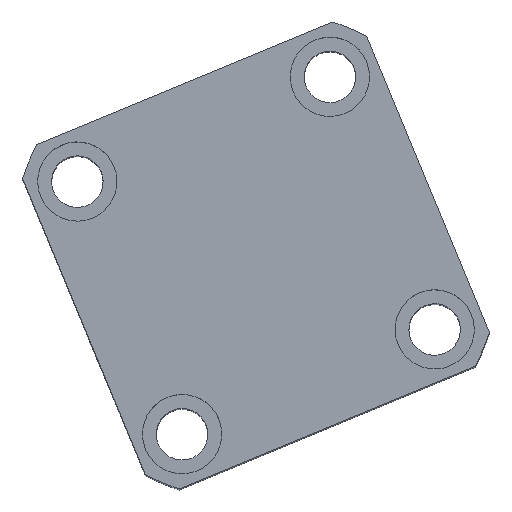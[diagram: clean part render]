
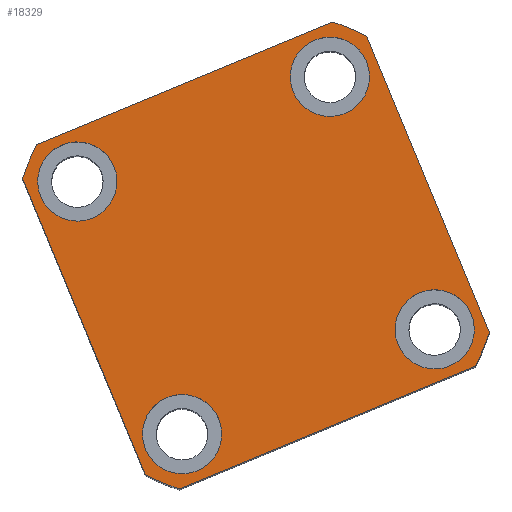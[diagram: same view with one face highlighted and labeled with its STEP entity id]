
A CAD part, top view. The second image highlights one B-rep face of the part: STEP entity #18329.
In plain terms, the highlighted planar face has unit normal (0, 0, 1) as drawn and (0, 0, -1) by its records, which use the part's own axes.
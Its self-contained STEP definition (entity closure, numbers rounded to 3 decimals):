
#22 = EDGE_CURVE ( 'NONE', #8369, #7451, #2681, .T. ) ;
#549 = EDGE_CURVE ( 'NONE', #849, #17460, #21818, .T. ) ;
#793 = DIRECTION ( 'NONE',  ( 0., 0., -1. ) ) ;
#849 = VERTEX_POINT ( 'NONE', #12873 ) ;
#913 = EDGE_LOOP ( 'NONE', ( #4081, #1590 ) ) ;
#1094 = CARTESIAN_POINT ( 'NONE',  ( -40.435, -47., 0. ) ) ;
#1113 = ORIENTED_EDGE ( 'NONE', *, *, #22320, .F. ) ;
#1490 = EDGE_LOOP ( 'NONE', ( #20046, #16457 ) ) ;
#1590 = ORIENTED_EDGE ( 'NONE', *, *, #549, .F. ) ;
#1638 = VECTOR ( 'NONE', #6488, 1000. ) ;
#2227 = EDGE_CURVE ( 'NONE', #17460, #849, #7490, .T. ) ;
#2338 = CIRCLE ( 'NONE', #5639, 10. ) ;
#2613 = CIRCLE ( 'NONE', #7751, 10. ) ;
#2681 = CIRCLE ( 'NONE', #6067, 10. ) ;
#2901 = AXIS2_PLACEMENT_3D ( 'NONE', #17996, #7690, #19758 ) ;
#3063 = DIRECTION ( 'NONE',  ( 0., 0., -1. ) ) ;
#3097 = EDGE_LOOP ( 'NONE', ( #9022, #17253 ) ) ;
#3123 = CARTESIAN_POINT ( 'NONE',  ( -34.5, -34.5, 0. ) ) ;
#3161 = VERTEX_POINT ( 'NONE', #16781 ) ;
#3204 = EDGE_CURVE ( 'NONE', #16765, #11398, #21440, .T. ) ;
#3255 = DIRECTION ( 'NONE',  ( 0., 0., 1. ) ) ;
#3385 = LINE ( 'NONE', #18712, #6867 ) ;
#3418 = VECTOR ( 'NONE', #12886, 1000. ) ;
#3911 = DIRECTION ( 'NONE',  ( 0., 0., -1. ) ) ;
#4081 = ORIENTED_EDGE ( 'NONE', *, *, #2227, .F. ) ;
#4095 = CARTESIAN_POINT ( 'NONE',  ( 0., 0., 0. ) ) ;
#4104 = EDGE_CURVE ( 'NONE', #20330, #10428, #3385, .T. ) ;
#4353 = ORIENTED_EDGE ( 'NONE', *, *, #21259, .F. ) ;
#4649 = EDGE_CURVE ( 'NONE', #7451, #8369, #17353, .T. ) ;
#4836 = DIRECTION ( 'NONE',  ( -1., 0., 0. ) ) ;
#4969 = CARTESIAN_POINT ( 'NONE',  ( 47., 40.435, 0. ) ) ;
#4992 = FACE_BOUND ( 'NONE', #17365, .T. ) ;
#5078 = AXIS2_PLACEMENT_3D ( 'NONE', #10192, #22253, #11908 ) ;
#5096 = DIRECTION ( 'NONE',  ( 0., 0., 1. ) ) ;
#5119 = DIRECTION ( 'NONE',  ( 0., 0., 1. ) ) ;
#5204 = CIRCLE ( 'NONE', #17248, 62. ) ;
#5634 = CARTESIAN_POINT ( 'NONE',  ( -34.5, 34.5, 0. ) ) ;
#5639 = AXIS2_PLACEMENT_3D ( 'NONE', #13367, #3063, #15106 ) ;
#5829 = DIRECTION ( 'NONE',  ( 1., 0., 0. ) ) ;
#5966 = CARTESIAN_POINT ( 'NONE',  ( -47., -47., 0. ) ) ;
#5974 = DIRECTION ( 'NONE',  ( 0., 0., -1. ) ) ;
#6067 = AXIS2_PLACEMENT_3D ( 'NONE', #14517, #793, #11138 ) ;
#6461 = CARTESIAN_POINT ( 'NONE',  ( -47., 47., 0. ) ) ;
#6488 = DIRECTION ( 'NONE',  ( 0., 1., 0. ) ) ;
#6802 = EDGE_CURVE ( 'NONE', #14773, #10284, #11155, .T. ) ;
#6867 = VECTOR ( 'NONE', #8404, 1000. ) ;
#7068 = CARTESIAN_POINT ( 'NONE',  ( -40.435, 47., 0. ) ) ;
#7104 = AXIS2_PLACEMENT_3D ( 'NONE', #7449, #19522, #9183 ) ;
#7148 = VERTEX_POINT ( 'NONE', #10773 ) ;
#7361 = DIRECTION ( 'NONE',  ( -1., 0., 0. ) ) ;
#7449 = CARTESIAN_POINT ( 'NONE',  ( -34.5, 34.5, 0. ) ) ;
#7451 = VERTEX_POINT ( 'NONE', #14732 ) ;
#7454 = CARTESIAN_POINT ( 'NONE',  ( -47., -40.435, 0. ) ) ;
#7490 = CIRCLE ( 'NONE', #7104, 10. ) ;
#7690 = DIRECTION ( 'NONE',  ( 0., 0., -1. ) ) ;
#7751 = AXIS2_PLACEMENT_3D ( 'NONE', #3123, #15167, #4836 ) ;
#7794 = EDGE_CURVE ( 'NONE', #3161, #18109, #5204, .T. ) ;
#7923 = ORIENTED_EDGE ( 'NONE', *, *, #22049, .F. ) ;
#7955 = LINE ( 'NONE', #5966, #3418 ) ;
#8149 = CARTESIAN_POINT ( 'NONE',  ( 47., 47., 0. ) ) ;
#8369 = VERTEX_POINT ( 'NONE', #8898 ) ;
#8404 = DIRECTION ( 'NONE',  ( 0., -1., 0. ) ) ;
#8898 = CARTESIAN_POINT ( 'NONE',  ( 44.5, -34.5, 0. ) ) ;
#9022 = ORIENTED_EDGE ( 'NONE', *, *, #6802, .F. ) ;
#9039 = FACE_OUTER_BOUND ( 'NONE', #12510, .T. ) ;
#9134 = VERTEX_POINT ( 'NONE', #19356 ) ;
#9183 = DIRECTION ( 'NONE',  ( -1., 0., 0. ) ) ;
#9404 = CARTESIAN_POINT ( 'NONE',  ( -47., 40.435, 0. ) ) ;
#9941 = DIRECTION ( 'NONE',  ( -1., 0., 0. ) ) ;
#10060 = DIRECTION ( 'NONE',  ( 1., 0., 0. ) ) ;
#10192 = CARTESIAN_POINT ( 'NONE',  ( 34.5, 34.5, 0. ) ) ;
#10284 = VERTEX_POINT ( 'NONE', #19439 ) ;
#10428 = VERTEX_POINT ( 'NONE', #7454 ) ;
#10773 = CARTESIAN_POINT ( 'NONE',  ( -24.5, -34.5, 0. ) ) ;
#10797 = LINE ( 'NONE', #8149, #1638 ) ;
#11138 = DIRECTION ( 'NONE',  ( -1., 0., 0. ) ) ;
#11155 = CIRCLE ( 'NONE', #5078, 10. ) ;
#11287 = AXIS2_PLACEMENT_3D ( 'NONE', #15448, #5119, #17161 ) ;
#11334 = CIRCLE ( 'NONE', #16606, 62. ) ;
#11398 = VERTEX_POINT ( 'NONE', #7068 ) ;
#11477 = ORIENTED_EDGE ( 'NONE', *, *, #4104, .F. ) ;
#11745 = CIRCLE ( 'NONE', #19369, 10. ) ;
#11908 = DIRECTION ( 'NONE',  ( -1., 0., 0. ) ) ;
#12131 = ORIENTED_EDGE ( 'NONE', *, *, #19075, .F. ) ;
#12271 = VECTOR ( 'NONE', #9941, 1000. ) ;
#12510 = EDGE_LOOP ( 'NONE', ( #12131, #1113, #13819, #16608, #4353, #11477, #7923, #19428 ) ) ;
#12719 = AXIS2_PLACEMENT_3D ( 'NONE', #13558, #3255, #15308 ) ;
#12873 = CARTESIAN_POINT ( 'NONE',  ( -24.5, 34.5, 0. ) ) ;
#12886 = DIRECTION ( 'NONE',  ( 1., 0., 0. ) ) ;
#13133 = AXIS2_PLACEMENT_3D ( 'NONE', #15171, #20389, #10060 ) ;
#13367 = CARTESIAN_POINT ( 'NONE',  ( -34.5, -34.5, 0. ) ) ;
#13483 = VERTEX_POINT ( 'NONE', #1094 ) ;
#13558 = CARTESIAN_POINT ( 'NONE',  ( 0., 0., 0. ) ) ;
#13617 = FACE_BOUND ( 'NONE', #3097, .T. ) ;
#13819 = ORIENTED_EDGE ( 'NONE', *, *, #7794, .F. ) ;
#14165 = FACE_BOUND ( 'NONE', #913, .T. ) ;
#14171 = AXIS2_PLACEMENT_3D ( 'NONE', #5634, #3911, #7361 ) ;
#14517 = CARTESIAN_POINT ( 'NONE',  ( 34.5, -34.5, 0. ) ) ;
#14616 = EDGE_CURVE ( 'NONE', #9134, #7148, #2613, .T. ) ;
#14732 = CARTESIAN_POINT ( 'NONE',  ( 24.5, -34.5, 0. ) ) ;
#14773 = VERTEX_POINT ( 'NONE', #15397 ) ;
#14943 = CARTESIAN_POINT ( 'NONE',  ( 47., -40.435, 0. ) ) ;
#14948 = CIRCLE ( 'NONE', #12719, 62. ) ;
#15106 = DIRECTION ( 'NONE',  ( -1., 0., 0. ) ) ;
#15167 = DIRECTION ( 'NONE',  ( 0., 0., -1. ) ) ;
#15171 = CARTESIAN_POINT ( 'NONE',  ( 0., 0., 0. ) ) ;
#15308 = DIRECTION ( 'NONE',  ( 1., 0., 0. ) ) ;
#15397 = CARTESIAN_POINT ( 'NONE',  ( 24.5, 34.5, 0. ) ) ;
#15422 = CARTESIAN_POINT ( 'NONE',  ( 0., 0., 0. ) ) ;
#15448 = CARTESIAN_POINT ( 'NONE',  ( 0., 0., 0. ) ) ;
#15585 = CARTESIAN_POINT ( 'NONE',  ( -44.5, 34.5, 0. ) ) ;
#15660 = CIRCLE ( 'NONE', #11287, 62. ) ;
#15911 = EDGE_CURVE ( 'NONE', #7148, #9134, #2338, .T. ) ;
#16142 = DIRECTION ( 'NONE',  ( 0., 0., 1. ) ) ;
#16297 = CARTESIAN_POINT ( 'NONE',  ( 34.5, 34.5, 0. ) ) ;
#16457 = ORIENTED_EDGE ( 'NONE', *, *, #22, .F. ) ;
#16606 = AXIS2_PLACEMENT_3D ( 'NONE', #4095, #16142, #5829 ) ;
#16608 = ORIENTED_EDGE ( 'NONE', *, *, #17035, .F. ) ;
#16765 = VERTEX_POINT ( 'NONE', #21218 ) ;
#16781 = CARTESIAN_POINT ( 'NONE',  ( 40.435, -47., 0. ) ) ;
#17035 = EDGE_CURVE ( 'NONE', #13483, #3161, #7955, .T. ) ;
#17098 = ORIENTED_EDGE ( 'NONE', *, *, #14616, .F. ) ;
#17139 = DIRECTION ( 'NONE',  ( 1., 0., 0. ) ) ;
#17161 = DIRECTION ( 'NONE',  ( 1., 0., 0. ) ) ;
#17248 = AXIS2_PLACEMENT_3D ( 'NONE', #15422, #5096, #17139 ) ;
#17253 = ORIENTED_EDGE ( 'NONE', *, *, #17899, .F. ) ;
#17353 = CIRCLE ( 'NONE', #2901, 10. ) ;
#17365 = EDGE_LOOP ( 'NONE', ( #17098, #18938 ) ) ;
#17460 = VERTEX_POINT ( 'NONE', #15585 ) ;
#17899 = EDGE_CURVE ( 'NONE', #10284, #14773, #11745, .T. ) ;
#17996 = CARTESIAN_POINT ( 'NONE',  ( 34.5, -34.5, 0. ) ) ;
#18012 = DIRECTION ( 'NONE',  ( -1., 0., 0. ) ) ;
#18109 = VERTEX_POINT ( 'NONE', #14943 ) ;
#18161 = FACE_BOUND ( 'NONE', #1490, .T. ) ;
#18329 = ADVANCED_FACE ( 'NONE', ( #18161, #4992, #14165, #13617, #9039 ), #18620, .F. ) ;
#18620 = PLANE ( 'NONE',  #13133 ) ;
#18712 = CARTESIAN_POINT ( 'NONE',  ( -47., 47., 0. ) ) ;
#18938 = ORIENTED_EDGE ( 'NONE', *, *, #15911, .F. ) ;
#19075 = EDGE_CURVE ( 'NONE', #21121, #16765, #14948, .T. ) ;
#19356 = CARTESIAN_POINT ( 'NONE',  ( -44.5, -34.5, 0. ) ) ;
#19369 = AXIS2_PLACEMENT_3D ( 'NONE', #16297, #5974, #18012 ) ;
#19428 = ORIENTED_EDGE ( 'NONE', *, *, #3204, .F. ) ;
#19439 = CARTESIAN_POINT ( 'NONE',  ( 44.5, 34.5, 0. ) ) ;
#19522 = DIRECTION ( 'NONE',  ( 0., 0., -1. ) ) ;
#19758 = DIRECTION ( 'NONE',  ( -1., 0., 0. ) ) ;
#20046 = ORIENTED_EDGE ( 'NONE', *, *, #4649, .F. ) ;
#20330 = VERTEX_POINT ( 'NONE', #9404 ) ;
#20389 = DIRECTION ( 'NONE',  ( 0., 0., 1. ) ) ;
#21121 = VERTEX_POINT ( 'NONE', #4969 ) ;
#21218 = CARTESIAN_POINT ( 'NONE',  ( 40.435, 47., 0. ) ) ;
#21259 = EDGE_CURVE ( 'NONE', #10428, #13483, #15660, .T. ) ;
#21440 = LINE ( 'NONE', #6461, #12271 ) ;
#21818 = CIRCLE ( 'NONE', #14171, 10. ) ;
#22049 = EDGE_CURVE ( 'NONE', #11398, #20330, #11334, .T. ) ;
#22253 = DIRECTION ( 'NONE',  ( 0., 0., -1. ) ) ;
#22320 = EDGE_CURVE ( 'NONE', #18109, #21121, #10797, .T. ) ;
